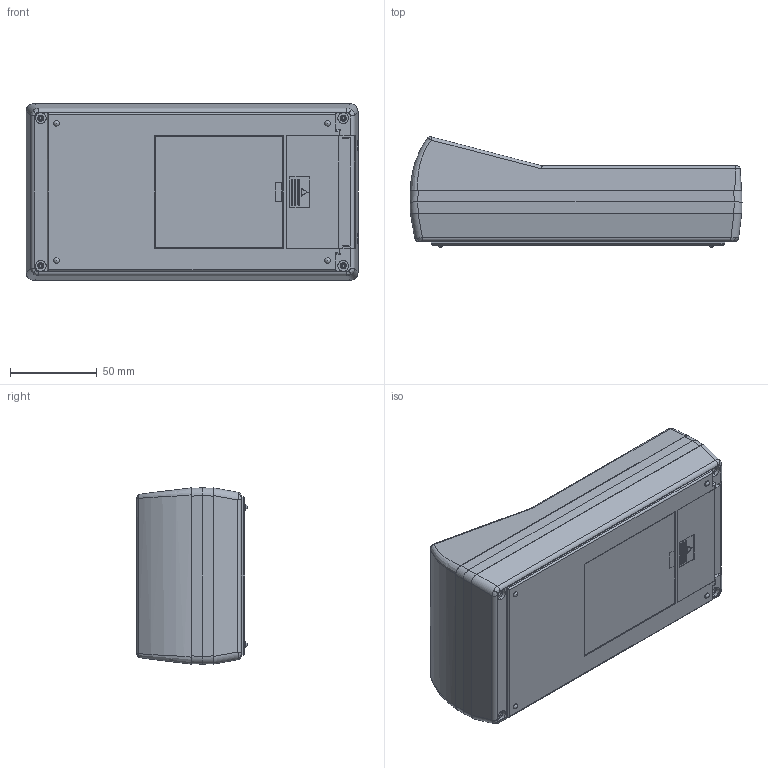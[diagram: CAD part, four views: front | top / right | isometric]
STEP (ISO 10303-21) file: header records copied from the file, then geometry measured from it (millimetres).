
FILE_DESCRIPTION (( 'STEP AP214' ), '1' );
FILE_NAME ('90-52-2A-E-R.STEP', '2019-12-01T15:31:22', ( 'Rudy' ), ( '' ), 'SwSTEP 2.0', 'SolidWorks 2014', '' );
FILE_SCHEMA (( 'AUTOMOTIVE_DESIGN' ));
Length unit declared in the file: millimetre
Products named in the file (6): 100-06 EXPANDER; 2AAdoor; 100 bessel; 100 Top Angled LCD; 100-02 BOT-2AA; 90-52-2A-E-R
Assembly tree (5 placements, depth 2):
  90-52-2A-E-R
    100-02 BOT-2AA
    100 Top Angled LCD
    100 bessel
    2AAdoor
    100-06 EXPANDER
Bounding box: 191 x 63.49 x 101.4 mm (x, y, z)
Volume: 148653.5 mm3; surface area: 153343.9 mm2
Topology: 5 solids, 5 shells, 865 faces, 2334 edges, 1500 vertices
Faces by surface type: plane 563, cylinder 222, cone 40, bspline 24, torus 12, sphere 4
Entity records: 28500 total; most frequent: CARTESIAN_POINT 6840, ORIENTED_EDGE 4632, DIRECTION 4145, EDGE_CURVE 2316, LINE 1697, VECTOR 1697, VERTEX_POINT 1492, AXIS2_PLACEMENT_3D 1224
